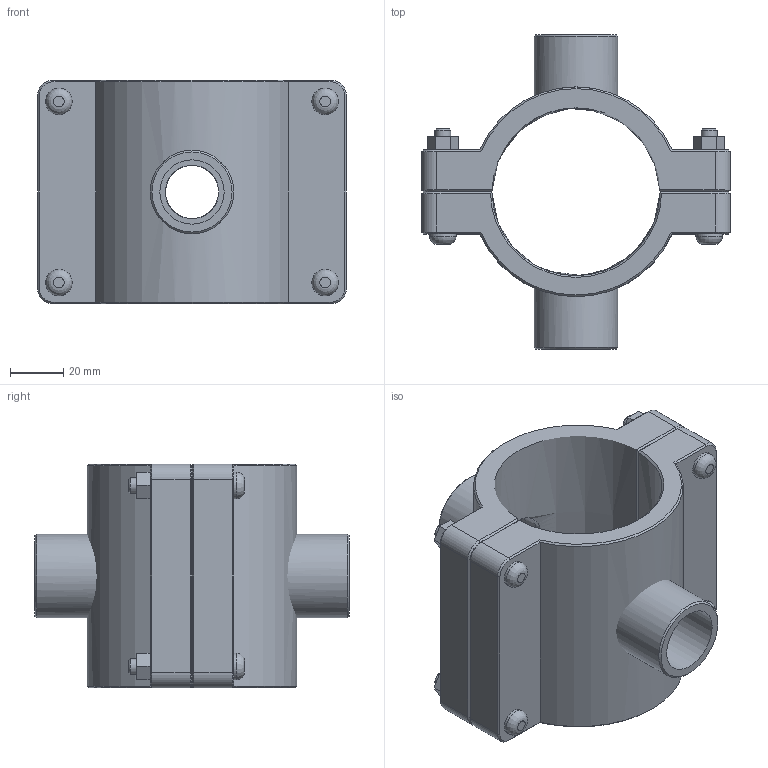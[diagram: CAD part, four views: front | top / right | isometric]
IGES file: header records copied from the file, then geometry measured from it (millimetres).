
Global section: file name: 161760063007_161860063007.ipt; native system: Autodesk Inventor 2015; preprocessor: unknown; author: KIM; date: 20170618.093703; units: millimetre
Bounding box: 116 x 118 x 84 mm (x, y, z)
Volume: 266553 mm3; surface area: 69444.3 mm2
Topology: 3 solids, 3 shells, 151 faces, 350 edges, 221 vertices
Faces by surface type: plane 84, cone 26, cylinder 24, revolution 17
Full cylindrical faces by diameter (mm): 6 x4, 10 x8, 31.352 x2
